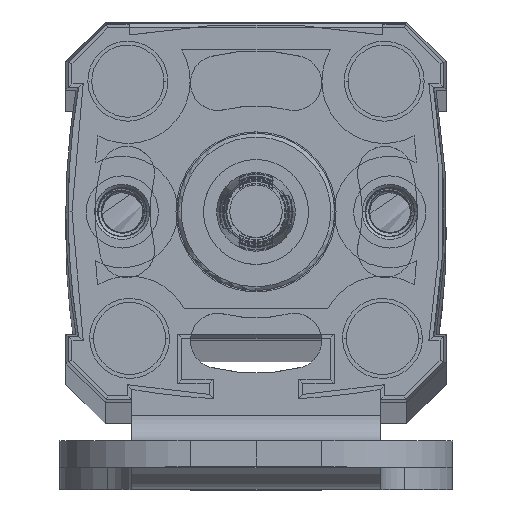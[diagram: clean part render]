
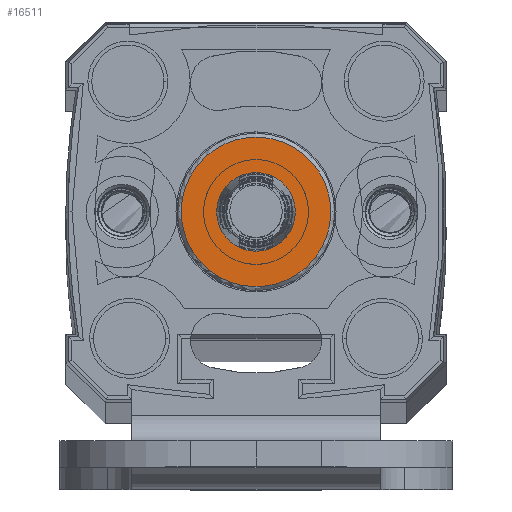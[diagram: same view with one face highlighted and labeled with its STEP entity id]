
A CAD part, top view. The second image highlights one B-rep face of the part: STEP entity #16511.
In plain terms, the highlighted planar face has unit normal (0, 0, 1).
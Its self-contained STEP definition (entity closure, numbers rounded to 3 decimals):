
#224 = EDGE_CURVE ( 'NONE', #30206, #4064, #6748, .T. ) ;
#427 = CARTESIAN_POINT ( 'NONE',  ( -5.7, 6.5, 12. ) ) ;
#2046 = CARTESIAN_POINT ( 'NONE',  ( 5.7, 6.5, 12. ) ) ;
#3517 = CARTESIAN_POINT ( 'NONE',  ( -5.7, -4.9, 12. ) ) ;
#3549 = CARTESIAN_POINT ( 'NONE',  ( 5.7, 6.5, 12. ) ) ;
#4064 = VERTEX_POINT ( 'NONE', #2046 ) ;
#4101 = EDGE_LOOP ( 'NONE', ( #7030, #20503 ) ) ;
#4817 = DIRECTION ( 'NONE',  ( 0., 0., 1. ) ) ;
#4833 = AXIS2_PLACEMENT_3D ( 'NONE', #28037, #4817, #30182 ) ;
#5619 = EDGE_CURVE ( 'NONE', #17727, #19769, #11414, .T. ) ;
#6748 =( BOUNDED_CURVE ( )  B_SPLINE_CURVE ( 3, ( #17518, #26913, #17364, #3549 ),
 .UNSPECIFIED., .F., .F. ) 
 B_SPLINE_CURVE_WITH_KNOTS ( ( 4, 4 ),
 ( 0.5, 1. ),
 .UNSPECIFIED. ) 
 CURVE ( )  GEOMETRIC_REPRESENTATION_ITEM ( )  RATIONAL_B_SPLINE_CURVE ( ( 1., 0.333, 0.333, 1. ) ) 
 REPRESENTATION_ITEM ( '' )  );
#7030 = ORIENTED_EDGE ( 'NONE', *, *, #224, .F. ) ;
#7096 = CARTESIAN_POINT ( 'NONE',  ( 2., 6.5, 12. ) ) ;
#7195 = CIRCLE ( 'NONE', #22894, 2. ) ;
#7661 = DIRECTION ( 'NONE',  ( -1., 0., 0. ) ) ;
#9371 = ORIENTED_EDGE ( 'NONE', *, *, #13239, .T. ) ;
#9889 =( BOUNDED_CURVE ( )  B_SPLINE_CURVE ( 3, ( #19633, #24742, #3517, #29183 ),
 .UNSPECIFIED., .F., .F. ) 
 B_SPLINE_CURVE_WITH_KNOTS ( ( 4, 4 ),
 ( 0., 0.5 ),
 .UNSPECIFIED. ) 
 CURVE ( )  GEOMETRIC_REPRESENTATION_ITEM ( )  RATIONAL_B_SPLINE_CURVE ( ( 1., 0.333, 0.333, 1. ) ) 
 REPRESENTATION_ITEM ( '' )  );
#9892 = DIRECTION ( 'NONE',  ( 0., 0., -1. ) ) ;
#11414 = CIRCLE ( 'NONE', #12387, 2. ) ;
#12334 = DIRECTION ( 'NONE',  ( -1., 0., 0. ) ) ;
#12387 = AXIS2_PLACEMENT_3D ( 'NONE', #16724, #21923, #7661 ) ;
#13239 = EDGE_CURVE ( 'NONE', #19769, #17727, #7195, .T. ) ;
#13726 = FACE_BOUND ( 'NONE', #18672, .T. ) ;
#14643 = CARTESIAN_POINT ( 'NONE',  ( 0., 6.5, 12. ) ) ;
#16020 = FACE_OUTER_BOUND ( 'NONE', #4101, .T. ) ;
#16511 = ADVANCED_FACE ( 'NONE', ( #13726, #16020 ), #25425, .T. ) ;
#16724 = CARTESIAN_POINT ( 'NONE',  ( 0., 6.5, 12. ) ) ;
#17364 = CARTESIAN_POINT ( 'NONE',  ( 5.7, 17.9, 12. ) ) ;
#17518 = CARTESIAN_POINT ( 'NONE',  ( -5.7, 6.5, 12. ) ) ;
#17727 = VERTEX_POINT ( 'NONE', #7096 ) ;
#18672 = EDGE_LOOP ( 'NONE', ( #9371, #27029 ) ) ;
#19633 = CARTESIAN_POINT ( 'NONE',  ( 5.7, 6.5, 12. ) ) ;
#19769 = VERTEX_POINT ( 'NONE', #22403 ) ;
#20503 = ORIENTED_EDGE ( 'NONE', *, *, #21603, .F. ) ;
#21603 = EDGE_CURVE ( 'NONE', #4064, #30206, #9889, .T. ) ;
#21923 = DIRECTION ( 'NONE',  ( 0., 0., -1. ) ) ;
#22403 = CARTESIAN_POINT ( 'NONE',  ( -2., 6.5, 12. ) ) ;
#22894 = AXIS2_PLACEMENT_3D ( 'NONE', #14643, #9892, #12334 ) ;
#24742 = CARTESIAN_POINT ( 'NONE',  ( 5.7, -4.9, 12. ) ) ;
#25425 = PLANE ( 'NONE',  #4833 ) ;
#26913 = CARTESIAN_POINT ( 'NONE',  ( -5.7, 17.9, 12. ) ) ;
#27029 = ORIENTED_EDGE ( 'NONE', *, *, #5619, .T. ) ;
#28037 = CARTESIAN_POINT ( 'NONE',  ( 0., 6.5, 12. ) ) ;
#29183 = CARTESIAN_POINT ( 'NONE',  ( -5.7, 6.5, 12. ) ) ;
#30182 = DIRECTION ( 'NONE',  ( 1., 0., 0. ) ) ;
#30206 = VERTEX_POINT ( 'NONE', #427 ) ;
